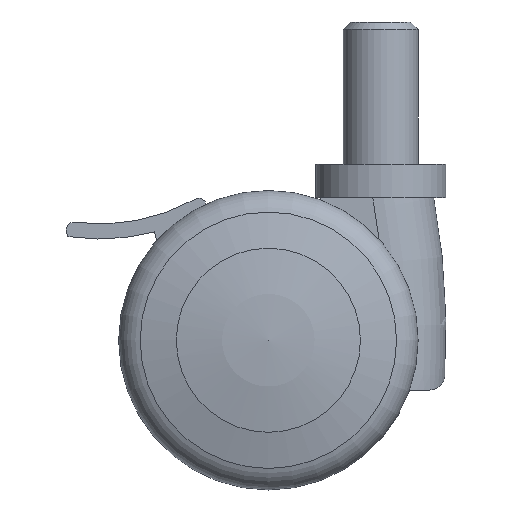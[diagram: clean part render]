
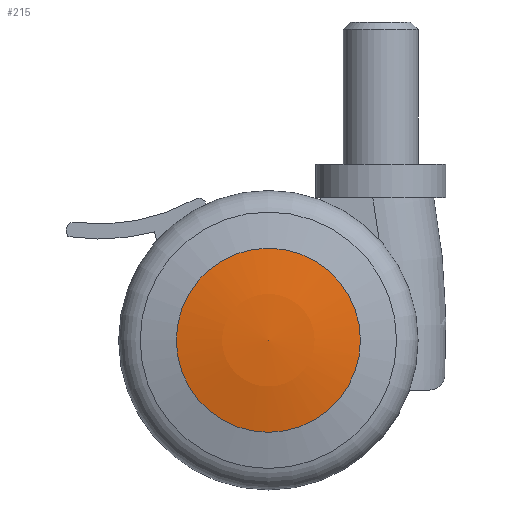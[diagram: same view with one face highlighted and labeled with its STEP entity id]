
A CAD part, front view. The second image highlights one B-rep face of the part: STEP entity #215.
In plain terms, the highlighted spherical face has radius 61.06 mm.
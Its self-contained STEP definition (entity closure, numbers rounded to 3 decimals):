
#215=ADVANCED_FACE('',(#364),#365,.T.);
#364=FACE_OUTER_BOUND('',#513,.T.);
#365=SPHERICAL_SURFACE('',#514,61.06);
#513=EDGE_LOOP('',(#661));
#514=AXIS2_PLACEMENT_3D('',#662,#663,#664);
#661=ORIENTED_EDGE('',*,*,#950,.T.);
#662=CARTESIAN_POINT('',(23.715,-17.06,20.));
#663=DIRECTION('',(0.,-1.0,0.0));
#664=DIRECTION('',(0.0,0.0,-1.0));
#950=EDGE_CURVE('',#1067,#1067,#1068,.T.);
#1067=VERTEX_POINT('',#1229);
#1068=CIRCLE('',#1230,12.292);
#1229=CARTESIAN_POINT('',(36.007,42.75,20.0));
#1230=AXIS2_PLACEMENT_3D('',#1505,#1506,#1507);
#1505=CARTESIAN_POINT('',(23.715,42.75,20.0));
#1506=DIRECTION('',(0.,1.0,0.0));
#1507=DIRECTION('',(1.0,0.,0.0));
